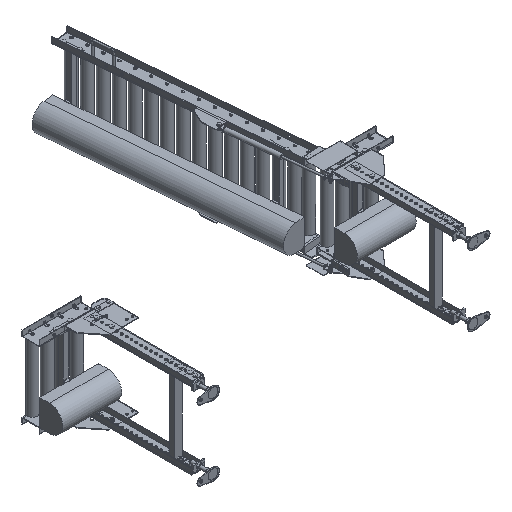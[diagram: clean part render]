
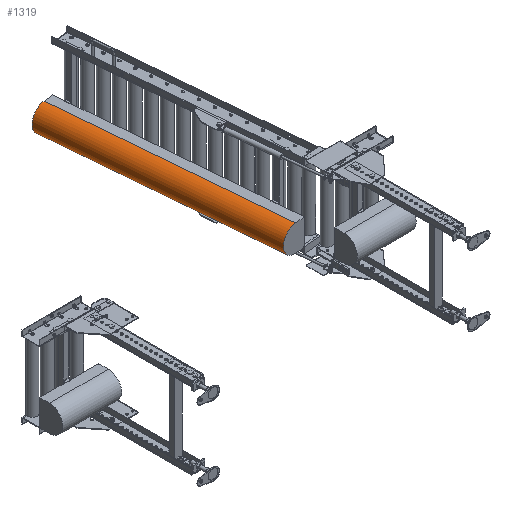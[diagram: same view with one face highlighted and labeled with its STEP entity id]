
A CAD part, isometric view. The second image highlights one B-rep face of the part: STEP entity #1319.
In plain terms, the highlighted cylindrical face has radius 66.89 mm (diameter 133.78 mm), a partial arc.
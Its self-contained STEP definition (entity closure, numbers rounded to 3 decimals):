
#1319=ADVANCED_FACE('',(#5696),#5695,.T.);
#5695=CYLINDRICAL_SURFACE('',#31999,66.89);
#5696=FACE_OUTER_BOUND('',#32000,.T.);
#31996=CARTESIAN_POINT('',(-63.444,-158.438,-112.61));
#31997=DIRECTION('',(0.087,-0.996,0.));
#31998=DIRECTION('',(0.,0.,-1.));
#31999=AXIS2_PLACEMENT_3D('',#31996,#31997,#31998);
#32000=EDGE_LOOP('',(#46529,#46530,#46531,#46532));
#46529=ORIENTED_EDGE('',*,*,#59468,.F.);
#46530=ORIENTED_EDGE('',*,*,#59490,.T.);
#46531=ORIENTED_EDGE('',*,*,#59488,.T.);
#46532=ORIENTED_EDGE('',*,*,#59462,.F.);
#59462=EDGE_CURVE('',#69279,#69286,#69287,.T.);
#59468=EDGE_CURVE('',#69320,#69279,#69327,.T.);
#59488=EDGE_CURVE('',#69465,#69286,#69466,.T.);
#59490=EDGE_CURVE('',#69320,#69465,#69478,.T.);
#69279=VERTEX_POINT('',#112653);
#69286=VERTEX_POINT('',#112657);
#69287=CIRCLE('',#112661,66.89);
#69320=VERTEX_POINT('',#112677);
#69327=LINE('',#112681,#112682);
#69465=VERTEX_POINT('',#112759);
#69466=LINE('',#112760,#112761);
#69478=CIRCLE('',#112769,66.89);
#112653=CARTESIAN_POINT('',(-181.863,1196.047,-179.5));
#112657=CARTESIAN_POINT('',(-181.863,1196.047,-45.72));
#112658=CARTESIAN_POINT('',(-181.863,1196.047,-112.61));
#112659=DIRECTION('',(-0.087,0.996,0.));
#112660=DIRECTION('',(0.,0.,1.));
#112661=AXIS2_PLACEMENT_3D('',#112658,#112659,#112660);
#112677=CARTESIAN_POINT('',(-78.917,18.539,-179.5));
#112681=CARTESIAN_POINT('',(-78.917,18.539,-179.5));
#112682=VECTOR('',#112683,1182.);
#112683=DIRECTION('',(-0.087,0.996,0.));
#112759=CARTESIAN_POINT('',(-78.917,18.539,-45.72));
#112760=CARTESIAN_POINT('',(-78.917,18.539,-45.72));
#112761=VECTOR('',#112762,1182.);
#112762=DIRECTION('',(-0.087,0.996,0.));
#112766=CARTESIAN_POINT('',(-78.917,18.539,-112.61));
#112767=DIRECTION('',(-0.087,0.996,0.));
#112768=DIRECTION('',(0.,0.,1.));
#112769=AXIS2_PLACEMENT_3D('',#112766,#112767,#112768);
